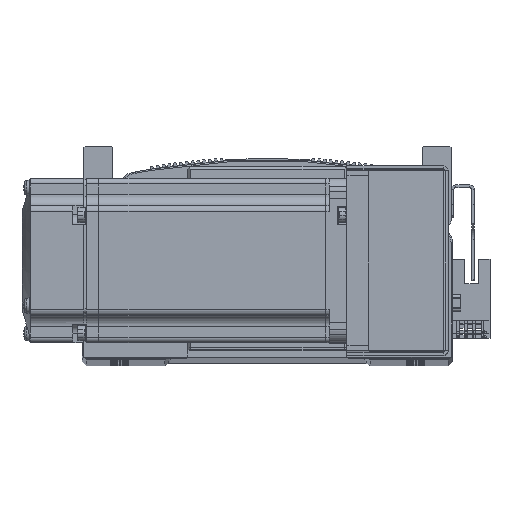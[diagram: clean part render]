
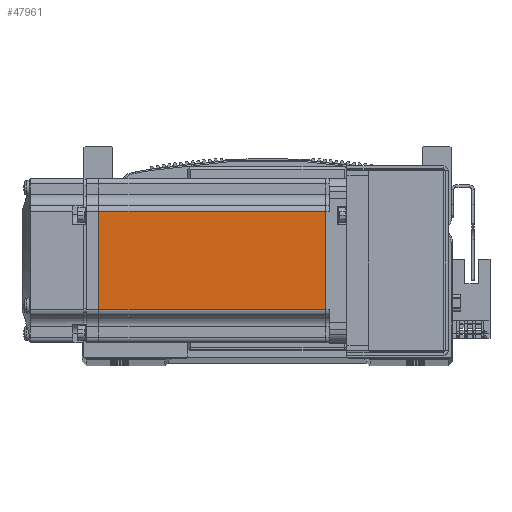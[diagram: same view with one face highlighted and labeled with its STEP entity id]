
A CAD part, top view. The second image highlights one B-rep face of the part: STEP entity #47961.
In plain terms, the highlighted planar face has unit normal (0, 0, 1) as drawn and (0, -1, 0) by its records, which use the part's own axes.
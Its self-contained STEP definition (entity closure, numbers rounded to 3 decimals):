
#13334 = DIRECTION ( 'NONE',  ( 0., 0., -1. ) ) ;
#13344 = CARTESIAN_POINT ( 'NONE',  ( -7.75, -30., 0. ) ) ;
#13378 = CARTESIAN_POINT ( 'NONE',  ( -6.5, -30., 18. ) ) ;
#13389 = CARTESIAN_POINT ( 'NONE',  ( -6.5, -30., -18. ) ) ;
#13398 = DIRECTION ( 'NONE',  ( -1., 0., 0. ) ) ;
#13399 = DIRECTION ( 'NONE',  ( -1., 0., 0. ) ) ;
#13411 = CARTESIAN_POINT ( 'NONE',  ( -90.45, -30., 0. ) ) ;
#13417 = DIRECTION ( 'NONE',  ( 0., 0., -1. ) ) ;
#15749 = AXIS2_PLACEMENT_3D ( 'NONE', #40466, #40459, #40489 ) ;
#19037 = EDGE_CURVE ( 'NONE', #30656, #30634, #71500, .T. ) ;
#19094 = EDGE_CURVE ( 'NONE', #30634, #30564, #71591, .T. ) ;
#19097 = EDGE_CURVE ( 'NONE', #30656, #30622, #71597, .T. ) ;
#19135 = EDGE_CURVE ( 'NONE', #30622, #30564, #71629, .T. ) ;
#22345 = ORIENTED_EDGE ( 'NONE', *, *, #19097, .T. ) ;
#22347 = ORIENTED_EDGE ( 'NONE', *, *, #19135, .T. ) ;
#22364 = ORIENTED_EDGE ( 'NONE', *, *, #19037, .F. ) ;
#22367 = ORIENTED_EDGE ( 'NONE', *, *, #19094, .F. ) ;
#30564 = VERTEX_POINT ( 'NONE', #60330 ) ;
#30622 = VERTEX_POINT ( 'NONE', #60431 ) ;
#30634 = VERTEX_POINT ( 'NONE', #60343 ) ;
#30656 = VERTEX_POINT ( 'NONE', #60351 ) ;
#40459 = DIRECTION ( 'NONE',  ( 0., -1., 0. ) ) ;
#40466 = CARTESIAN_POINT ( 'NONE',  ( -6.5, -30., -25. ) ) ;
#40470 = PLANE ( 'NONE',  #15749 ) ;
#40489 = DIRECTION ( 'NONE',  ( 0., 0., -1. ) ) ;
#47961 = ADVANCED_FACE ( 'NONE', ( #59161 ), #40470, .T. ) ;
#59161 = FACE_OUTER_BOUND ( 'NONE', #62539, .T. ) ;
#60330 = CARTESIAN_POINT ( 'NONE',  ( -90.45, -30., -18. ) ) ;
#60343 = CARTESIAN_POINT ( 'NONE',  ( -7.75, -30., -18. ) ) ;
#60351 = CARTESIAN_POINT ( 'NONE',  ( -7.75, -30., 18. ) ) ;
#60431 = CARTESIAN_POINT ( 'NONE',  ( -90.45, -30., 18. ) ) ;
#62539 = EDGE_LOOP ( 'NONE', ( #22364, #22345, #22347, #22367 ) ) ;
#71500 = LINE ( 'NONE', #13344, #71507 ) ;
#71507 = VECTOR ( 'NONE', #13334, 1000. ) ;
#71567 = VECTOR ( 'NONE', #13398, 1000. ) ;
#71591 = LINE ( 'NONE', #13389, #71567 ) ;
#71597 = LINE ( 'NONE', #13378, #71598 ) ;
#71598 = VECTOR ( 'NONE', #13399, 1000. ) ;
#71629 = LINE ( 'NONE', #13411, #71631 ) ;
#71631 = VECTOR ( 'NONE', #13417, 1000. ) ;
